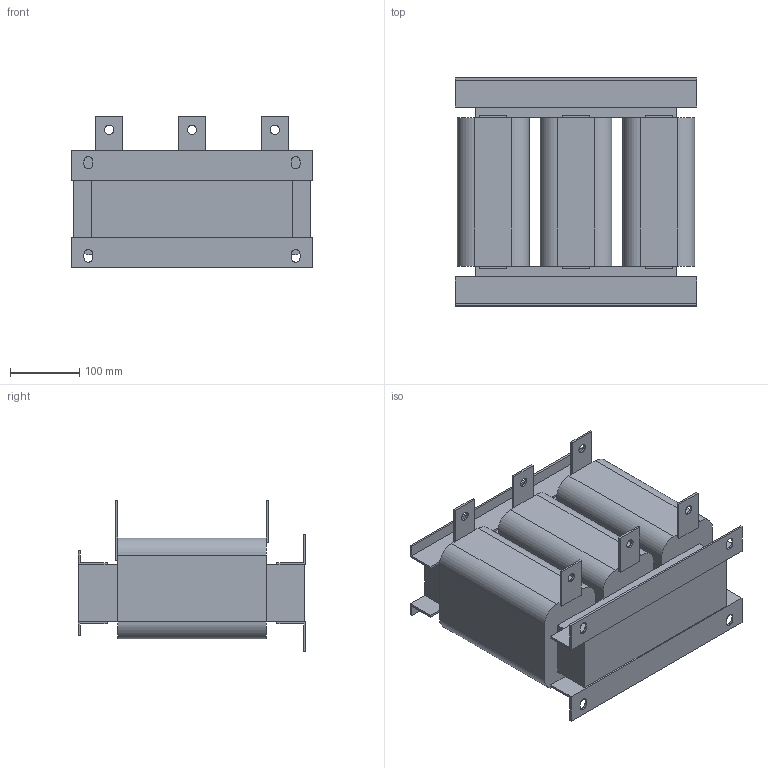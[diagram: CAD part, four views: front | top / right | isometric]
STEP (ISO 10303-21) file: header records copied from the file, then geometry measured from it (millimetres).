
FILE_DESCRIPTION(/* description */ (''),/* implementation_level */ '2;1');
FILE_NAME(/* name */ 'E:\Работа\Веда МК (Данфосс)\!Текущие задачи\2024.08.30 3D модели\Дроссели\ACO 1-проц 660 В\STP\ACO-C-0430-T6.stp',/* time_stamp */ '2024-11-01T15:27:45+04:00',/* author */ ('Александр (огранич)'),/* organization */ (''),/* preprocessor_version */ 'ST-DEVELOPER v18.1',/* originating_system */ 'Autodesk Inventor 2021',/* authorisation */ '');
FILE_SCHEMA (('AUTOMOTIVE_DESIGN { 1 0 10303 214 3 1 1 }'));
Length unit declared in the file: millimetre
Products named in the file (1): ACO-0015-T4-4
Bounding box: 350 x 330 x 220 mm (x, y, z)
Volume: 12513212.6 mm3; surface area: 668095.9 mm2
Topology: 3 solids, 3 shells, 136 faces, 373 edges, 239 vertices
Faces by surface type: plane 110, cylinder 26
Full cylindrical faces by diameter (mm): 13 x6
Entity records: 4335 total; most frequent: CARTESIAN_POINT 749, ORIENTED_EDGE 746, DIRECTION 710, EDGE_CURVE 373, LINE 310, VECTOR 310, VERTEX_POINT 239, AXIS2_PLACEMENT_3D 200
